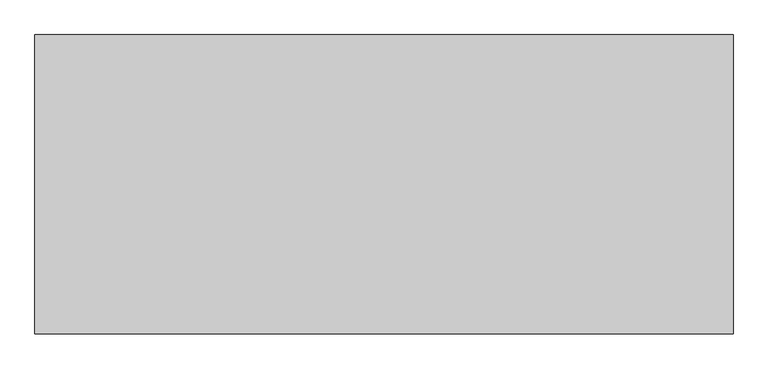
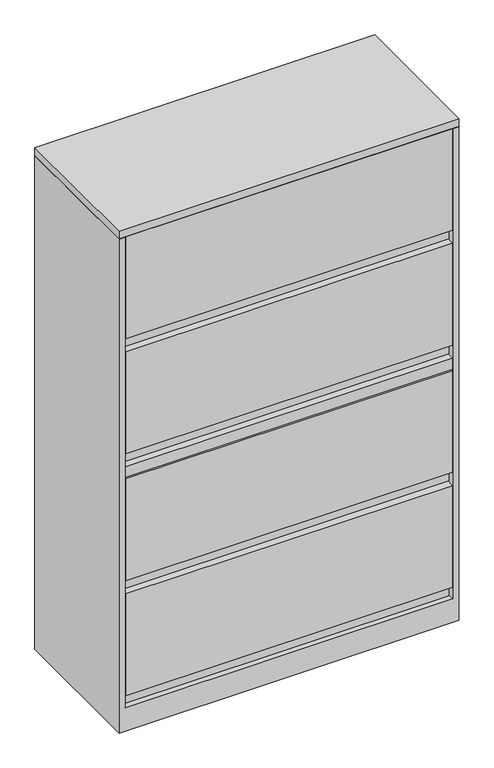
"""IFC4 building model written with IfcOpenShell, lengths in millimetres: furniture geometry, Steelcase - 900 Series - Storage - Lateral File With Roll Out Shelf - Flush Steel : 65 1/2H x 42W - 1 1⁄2H Filler."""

from ifc_helpers import new_model, si_unit, frame, origin, place, context, project, spatial, polyline, outline, extrude, faceted_brep, source, transform, mapped, element, save


def furniture_f46a01a4(model_context):
    return source(origin(), model_context, "Body", "SolidModel", [
        extrude(outline(polyline([(-439.6742224, 1296.1620299), (-457.2, 1300.531676), (-457.2, 1637.8935942), (-431.800255, 1637.8935942), (-431.800255, 1261.6179926), (-439.6742224, 1261.6179926), (-439.6742224, 1296.1620299)])), frame((20.8289612, 0.0, 0.0), z_axis=(1.0, 0.0, 0.0), x_axis=(0.0, 1.0, 0.0)), (0.0, 0.0, 1.0), 1025.1432404),
        extrude(outline(polyline([(-439.6742224, 493.522034), (-457.2, 497.89168), (-457.2, 835.2535983), (-431.800255, 835.2535983), (-431.800255, 458.9779967), (-439.6742224, 458.9779967), (-439.6742224, 493.522034)])), frame((20.8289612, 0.0, 0.0), z_axis=(1.0, 0.0, 0.0), x_axis=(0.0, 1.0, 0.0)), (0.0, 0.0, 1.0), 1025.1432404),
        extrude(outline(polyline([(-439.6742224, 112.5220364), (-457.2, 116.8916825), (-457.2, 454.2536007), (-431.800255, 454.2536007), (-431.800255, 77.9779983), (-439.6742224, 77.9779983), (-439.6742224, 112.5220364)])), frame((20.8289612, 0.0, 0.0), z_axis=(1.0, 0.0, 0.0), x_axis=(0.0, 1.0, 0.0)), (0.0, 0.0, 1.0), 1025.1432404),
        extrude(outline(polyline([(-439.6742224, 915.162034), (-457.2, 919.53168), (-457.2, 1256.8935983), (-431.800255, 1256.8935983), (-431.800255, 880.6179942), (-439.6742224, 880.6179942), (-439.6742224, 915.162034)])), frame((20.8289612, 0.0, 0.0), z_axis=(1.0, 0.0, 0.0), x_axis=(0.0, 1.0, 0.0)), (0.0, 0.0, 1.0), 1025.1432404),
        extrude(outline(polyline([(1045.9722015, -457.2), (20.8289612, -457.2), (20.8289612, -431.800255), (1045.9722015, -431.800255), (1045.9722015, -457.2)])), frame((0.0, 0.0, 839.9779983), z_axis=(0.0, 0.0, 1.0), x_axis=(1.0, 0.0, 0.0)), (0.0, 0.0, 1.0), 35.9156),
        faceted_brep([(1047.4960184, -25.2721219, 1636.776), (1047.4960184, -457.2, 1636.776), (1066.8, -457.2, 1636.776), (1066.8, 0.0, 1636.776), (0.0, 0.0, 1636.776), (0.0, -457.2, 1636.776), (19.3039998, -457.2, 1636.776), (19.3039998, -25.2721219, 1636.776), (0.0, -457.2, 0.0), (0.0, 0.0, 0.0), (1066.8, 0.0, 0.0), (1066.8, -457.2, 0.0), (1047.4960184, -25.2721219, 406.7048), (1047.4960184, -431.800255, 406.7048), (1047.4960184, -431.800255, 381.254), (1047.4960184, -25.2721219, 381.254), (1047.4960184, -25.2721219, 103.3780013), (1047.4960184, -430.275847, 103.3780013), (1047.4960184, -430.275847, 77.9779983), (1047.4960184, -457.2, 77.9779983), (19.3039998, -457.2, 77.9779983), (19.3039998, -430.275847, 77.9779983), (19.3039998, -430.275847, 103.3780013), (19.3039998, -25.2721219, 103.3780013), (19.3039998, -25.2721219, 381.254), (19.3039998, -431.800255, 381.254), (19.3039998, -431.800255, 406.7048), (19.3039998, -25.2721219, 406.7048)], [[[0, 1, 2, 3, 4, 5, 6, 7]], [[8, 9, 10, 11]], [[1, 0, 12, 13, 14, 15, 16, 17, 18, 19]], [[2, 1, 19, 20, 6, 5, 8, 11]], [[3, 2, 11, 10]], [[4, 3, 10, 9]], [[5, 4, 9, 8]], [[7, 6, 20, 21, 22, 23, 24, 25, 26, 27]], [[0, 7, 27, 12]], [[16, 15, 24, 23]], [[18, 21, 20, 19]], [[22, 17, 16, 23]], [[21, 18, 17, 22]], [[26, 13, 12, 27]], [[13, 26, 25, 14]], [[14, 25, 24, 15]]]),
        faceted_brep([(1066.8, 0.0, 1663.7), (0.0, 0.0, 1663.7), (0.0, -457.2, 1663.7), (1066.8, -457.2, 1663.7), (1066.8, 0.0, 1638.2999516), (1066.8, -457.2, 1638.2999516), (0.0, -457.2, 1638.2999516), (0.0, 0.0, 1638.2999516), (1047.4960184, -25.2721219, 1638.2999516), (20.8289612, -25.2721219, 1638.2999516), (20.8289612, -415.9241219, 1638.2999516), (1047.4960184, -415.9241219, 1638.2999516), (1047.4960184, -25.2721219, 1636.776), (1047.4960184, -415.9241219, 1636.776), (20.8289612, -415.9241219, 1636.776), (20.8289612, -25.2721219, 1636.776)], [[[0, 1, 2, 3]], [[4, 5, 6, 7], [8, 9, 10, 11]], [[1, 0, 4, 7]], [[2, 1, 7, 6]], [[3, 2, 6, 5]], [[0, 3, 5, 4]], [[12, 13, 14, 15]], [[12, 15, 9, 8]], [[15, 14, 10, 9]], [[14, 13, 11, 10]], [[13, 12, 8, 11]]]),
    ])


if __name__ == "__main__":
    model = new_model("IFC4")
    model_context = context("Model", 3, world=origin())
    ifc_project = project(units=[si_unit("LENGTHUNIT", "METRE", prefix="MILLI")], contexts=[model_context])
    site = spatial("IfcSite", under=ifc_project)
    building = spatial("IfcBuilding", under=site)
    placement = place(None, origin())
    furniture_shape = furniture_f46a01a4(model_context)
    element("IfcFurniture", 1, ObjectType="Steelcase - 900 Series - Storage - Lateral File With Roll Out Shelf - Flush Steel : 65 1/2H x 42W - 1 1⁄2H Filler", at=placement, inside=building, context=model_context, shape_type="MappedRepresentation", body=[
        mapped(furniture_shape, transform((0.0, 0.0, 0.0), x_axis=(1.0, 0.0, 0.0), y_axis=(0.0, 1.0, 0.0), z_axis=(0.0, 0.0, 1.0))),
    ])
    save(model, "model.ifc")
